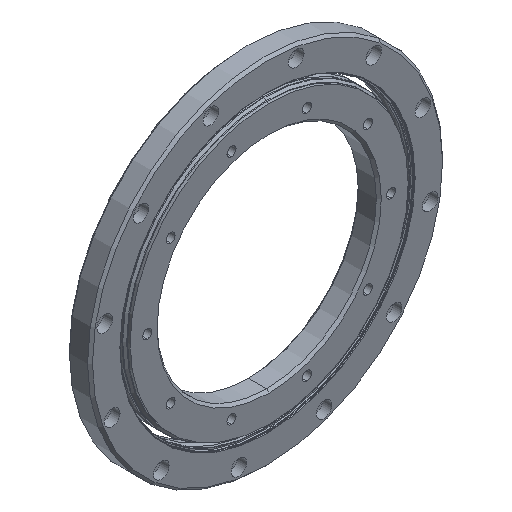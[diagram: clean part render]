
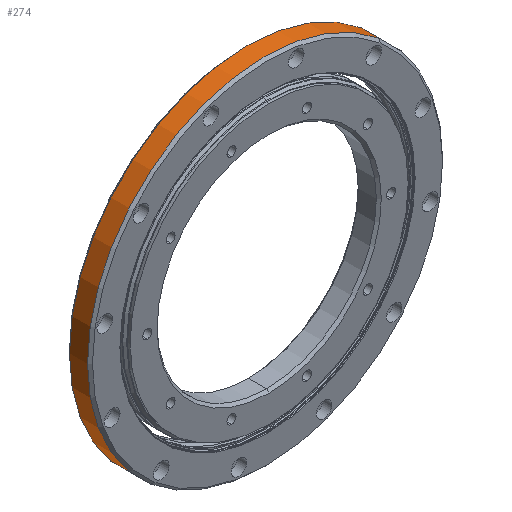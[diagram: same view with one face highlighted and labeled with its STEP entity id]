
A CAD part, isometric view. The second image highlights one B-rep face of the part: STEP entity #274.
In plain terms, the highlighted cylindrical face has radius 107.95 mm (diameter 215.9 mm), a partial arc.
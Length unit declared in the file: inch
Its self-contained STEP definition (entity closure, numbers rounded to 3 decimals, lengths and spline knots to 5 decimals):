
#32 = CARTESIAN_POINT ( 'NONE',  ( 0., 0.09843, 0. ) ) ;
#165 = DIRECTION ( 'NONE',  ( 0., -1., 0. ) ) ;
#198 = VERTEX_POINT ( 'NONE', #2457 ) ;
#274 = ADVANCED_FACE ( 'NONE', ( #908 ), #3079, .T. ) ;
#328 = EDGE_LOOP ( 'NONE', ( #4449, #4310, #3830, #3571 ) ) ;
#455 = CARTESIAN_POINT ( 'NONE',  ( 0., 0.09843, -4.25 ) ) ;
#479 = DIRECTION ( 'NONE',  ( 0., 0., -1. ) ) ;
#614 = VERTEX_POINT ( 'NONE', #455 ) ;
#683 = DIRECTION ( 'NONE',  ( 0., -1., 0. ) ) ;
#729 = VECTOR ( 'NONE', #165, 39.37008 ) ;
#744 = AXIS2_PLACEMENT_3D ( 'NONE', #2306, #3161, #1005 ) ;
#908 = FACE_OUTER_BOUND ( 'NONE', #328, .T. ) ;
#962 = CARTESIAN_POINT ( 'NONE',  ( 0., 0.5315, 4.25 ) ) ;
#1005 = DIRECTION ( 'NONE',  ( 0., 0., -1. ) ) ;
#1574 = EDGE_CURVE ( 'NONE', #2313, #4866, #1735, .T. ) ;
#1735 = LINE ( 'NONE', #3833, #2861 ) ;
#1747 = DIRECTION ( 'NONE',  ( 0., -1., 0. ) ) ;
#2055 = EDGE_CURVE ( 'NONE', #198, #614, #4327, .T. ) ;
#2090 = AXIS2_PLACEMENT_3D ( 'NONE', #3284, #683, #3711 ) ;
#2306 = CARTESIAN_POINT ( 'NONE',  ( 0., 0., 0. ) ) ;
#2313 = VERTEX_POINT ( 'NONE', #962 ) ;
#2457 = CARTESIAN_POINT ( 'NONE',  ( 0., 0.5315, -4.25 ) ) ;
#2804 = EDGE_CURVE ( 'NONE', #2313, #198, #4118, .T. ) ;
#2852 = CIRCLE ( 'NONE', #4826, 4.25 ) ;
#2861 = VECTOR ( 'NONE', #1747, 39.37008 ) ;
#3079 = CYLINDRICAL_SURFACE ( 'NONE', #744, 4.25 ) ;
#3097 = DIRECTION ( 'NONE',  ( 0., 1., 0. ) ) ;
#3161 = DIRECTION ( 'NONE',  ( 0., -1., 0. ) ) ;
#3284 = CARTESIAN_POINT ( 'NONE',  ( 0., 0.5315, 0. ) ) ;
#3571 = ORIENTED_EDGE ( 'NONE', *, *, #3820, .T. ) ;
#3711 = DIRECTION ( 'NONE',  ( 0., 0., -1. ) ) ;
#3820 = EDGE_CURVE ( 'NONE', #614, #4866, #2852, .T. ) ;
#3830 = ORIENTED_EDGE ( 'NONE', *, *, #2055, .T. ) ;
#3833 = CARTESIAN_POINT ( 'NONE',  ( 0., 0., 4.25 ) ) ;
#4118 = CIRCLE ( 'NONE', #2090, 4.25 ) ;
#4310 = ORIENTED_EDGE ( 'NONE', *, *, #2804, .T. ) ;
#4327 = LINE ( 'NONE', #4911, #729 ) ;
#4449 = ORIENTED_EDGE ( 'NONE', *, *, #1574, .F. ) ;
#4826 = AXIS2_PLACEMENT_3D ( 'NONE', #32, #3097, #479 ) ;
#4866 = VERTEX_POINT ( 'NONE', #5591 ) ;
#4911 = CARTESIAN_POINT ( 'NONE',  ( 0., 0., -4.25 ) ) ;
#5591 = CARTESIAN_POINT ( 'NONE',  ( 0., 0.09843, 4.25 ) ) ;
